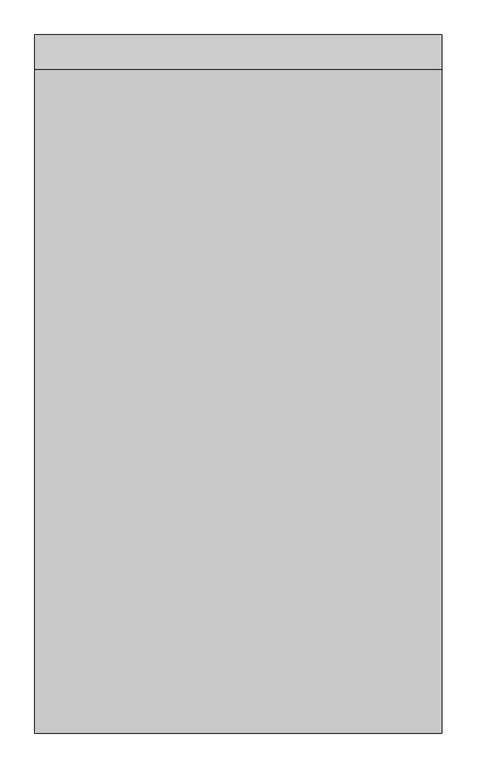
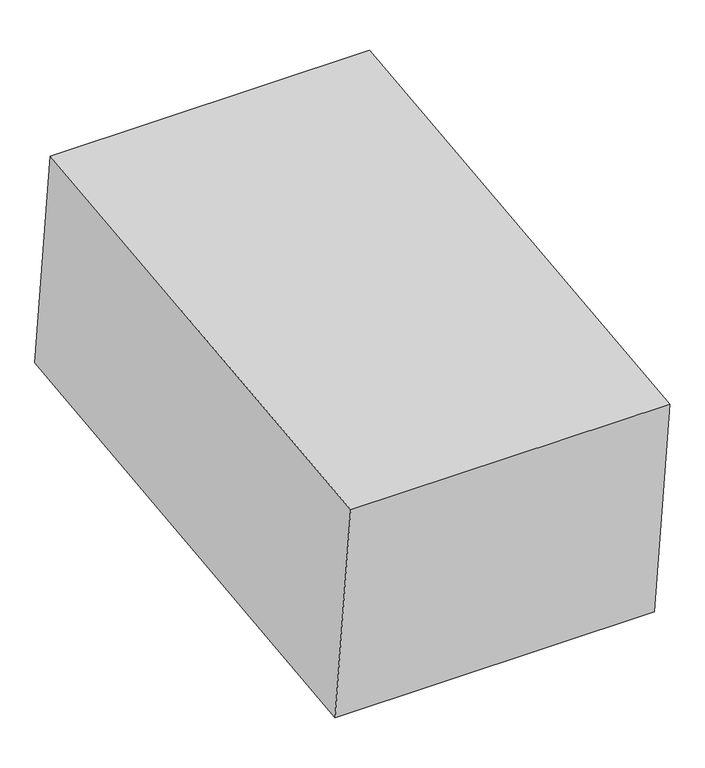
"""IFC4 building model written with IfcOpenShell, lengths in millimetres: proxy geometry, Excavation FamilySP : Excavation FamilySP."""

from ifc_helpers import new_model, si_unit, frame, origin, place, context, project, spatial, polyline, outline, extrude, source, transform, mapped, element, save


def generic_models_d54b75d8(model_context):
    return source(origin(), model_context, "Body", "SweptSolid", [
        extrude(outline(polyline([(-256.8404028, 2243.0412163), (0.0, 0.0), (-4967.5401245, -568.8103265), (-5225.5335692, 1684.3006468), (-256.8404028, 2243.0412163)])), frame((-1524.0, 0.0, 0.0), z_axis=(1.0, 0.0, 0.0), x_axis=(0.0, 1.0, 0.0)), (0.0, 0.0, 1.0), 3048.0),
    ])


if __name__ == "__main__":
    model = new_model("IFC4")
    model_context = context("Model", 3, world=origin())
    ifc_project = project(units=[si_unit("LENGTHUNIT", "METRE", prefix="MILLI")], contexts=[model_context])
    site = spatial("IfcSite", under=ifc_project)
    building = spatial("IfcBuilding", under=site)
    placement = place(None, origin())
    generic_models_shape = generic_models_d54b75d8(model_context)
    element("IfcBuildingElementProxy", 1, Name="Excavation FamilySP : Excavation FamilySP", ObjectType="Excavation FamilySP : Excavation FamilySP", at=placement, inside=building, context=model_context, shape_type="MappedRepresentation", body=[
        mapped(generic_models_shape, transform((0.0, 0.0, 0.0), x_axis=(1.0, 0.0, 0.0), y_axis=(0.0, 1.0, 0.0), z_axis=(0.0, 0.0, 1.0))),
    ])
    save(model, "model.ifc")
